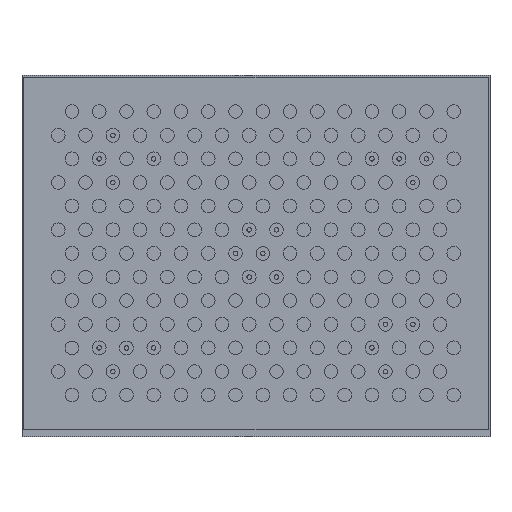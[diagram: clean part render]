
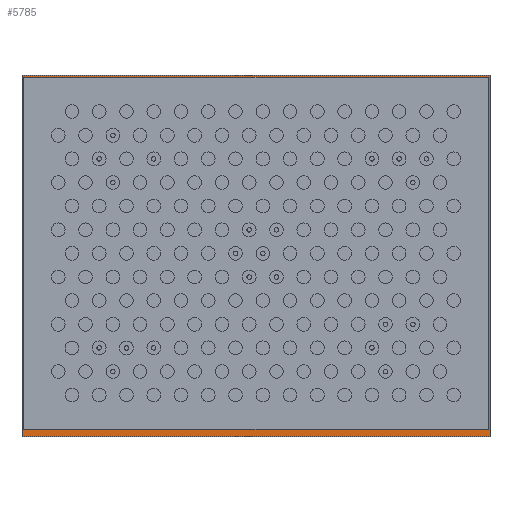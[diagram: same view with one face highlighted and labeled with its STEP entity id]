
A CAD part, top view. The second image highlights one B-rep face of the part: STEP entity #5785.
In plain terms, the highlighted planar face has unit normal (0, 0, 1).
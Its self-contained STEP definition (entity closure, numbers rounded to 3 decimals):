
#209=FACE_BOUND('',#1357,.T.);
#259=PLANE('',#6702);
#710=FACE_OUTER_BOUND('',#1356,.T.);
#1356=EDGE_LOOP('',(#4810,#4811,#4812,#4813));
#1357=EDGE_LOOP('',(#4814,#4815,#4816,#4817));
#1792=LINE('',#10233,#2039);
#1796=LINE('',#10241,#2043);
#1799=LINE('',#10247,#2046);
#1802=LINE('',#10252,#2049);
#1815=LINE('',#10335,#2062);
#1816=LINE('',#10337,#2063);
#1817=LINE('',#10339,#2064);
#1818=LINE('',#10340,#2065);
#2039=VECTOR('',#8413,10.);
#2043=VECTOR('',#8419,10.);
#2046=VECTOR('',#8424,10.);
#2049=VECTOR('',#8429,10.);
#2062=VECTOR('',#8534,10.);
#2063=VECTOR('',#8535,10.);
#2064=VECTOR('',#8536,10.);
#2065=VECTOR('',#8537,10.);
#2944=VERTEX_POINT('',#10231);
#2945=VERTEX_POINT('',#10232);
#2948=VERTEX_POINT('',#10240);
#2950=VERTEX_POINT('',#10246);
#2974=VERTEX_POINT('',#10333);
#2975=VERTEX_POINT('',#10334);
#2976=VERTEX_POINT('',#10336);
#2977=VERTEX_POINT('',#10338);
#3618=EDGE_CURVE('',#2944,#2945,#1792,.T.);
#3622=EDGE_CURVE('',#2945,#2948,#1796,.T.);
#3625=EDGE_CURVE('',#2948,#2950,#1799,.T.);
#3628=EDGE_CURVE('',#2950,#2944,#1802,.T.);
#3663=EDGE_CURVE('',#2974,#2975,#1815,.T.);
#3664=EDGE_CURVE('',#2975,#2976,#1816,.T.);
#3665=EDGE_CURVE('',#2976,#2977,#1817,.T.);
#3666=EDGE_CURVE('',#2977,#2974,#1818,.T.);
#4810=ORIENTED_EDGE('',*,*,#3663,.T.);
#4811=ORIENTED_EDGE('',*,*,#3664,.T.);
#4812=ORIENTED_EDGE('',*,*,#3665,.T.);
#4813=ORIENTED_EDGE('',*,*,#3666,.T.);
#4814=ORIENTED_EDGE('',*,*,#3618,.T.);
#4815=ORIENTED_EDGE('',*,*,#3622,.T.);
#4816=ORIENTED_EDGE('',*,*,#3625,.T.);
#4817=ORIENTED_EDGE('',*,*,#3628,.T.);
#5785=ADVANCED_FACE('',(#710,#209),#259,.T.);
#6702=AXIS2_PLACEMENT_3D('',#10332,#8532,#8533);
#8413=DIRECTION('',(1.,0.,0.));
#8419=DIRECTION('',(0.,-1.,0.));
#8424=DIRECTION('',(-1.,0.,0.));
#8429=DIRECTION('',(0.,1.,0.));
#8532=DIRECTION('center_axis',(0.,0.,1.));
#8533=DIRECTION('ref_axis',(1.,0.,0.));
#8534=DIRECTION('',(1.,0.,0.));
#8535=DIRECTION('',(0.,1.,0.));
#8536=DIRECTION('',(-1.,0.,0.));
#8537=DIRECTION('',(0.,-1.,0.));
#10231=CARTESIAN_POINT('',(-250.,192.5,4.));
#10232=CARTESIAN_POINT('',(250.,192.5,4.));
#10233=CARTESIAN_POINT('',(125.,192.5,4.));
#10240=CARTESIAN_POINT('',(250.,-186.7,4.));
#10241=CARTESIAN_POINT('',(250.,-93.35,4.));
#10246=CARTESIAN_POINT('',(-250.,-186.7,4.));
#10247=CARTESIAN_POINT('',(-125.,-186.7,4.));
#10252=CARTESIAN_POINT('',(-250.,96.25,4.));
#10332=CARTESIAN_POINT('Origin',(0.,0.,4.));
#10333=CARTESIAN_POINT('',(-252.,-194.5,4.));
#10334=CARTESIAN_POINT('',(252.,-194.5,4.));
#10335=CARTESIAN_POINT('',(-252.,-194.5,4.));
#10336=CARTESIAN_POINT('',(252.,194.5,4.));
#10337=CARTESIAN_POINT('',(252.,-194.5,4.));
#10338=CARTESIAN_POINT('',(-252.,194.5,4.));
#10339=CARTESIAN_POINT('',(252.,194.5,4.));
#10340=CARTESIAN_POINT('',(-252.,194.5,4.));
